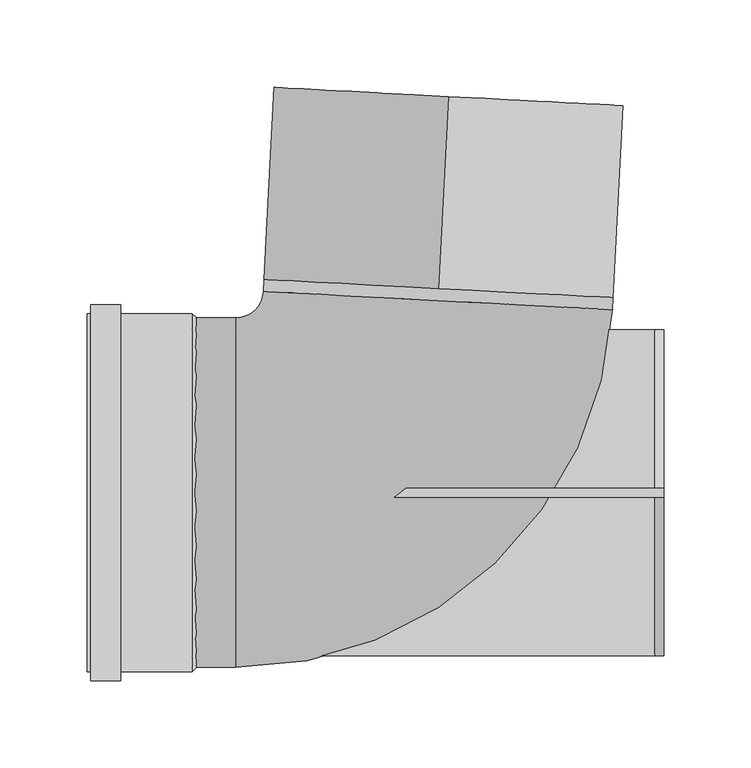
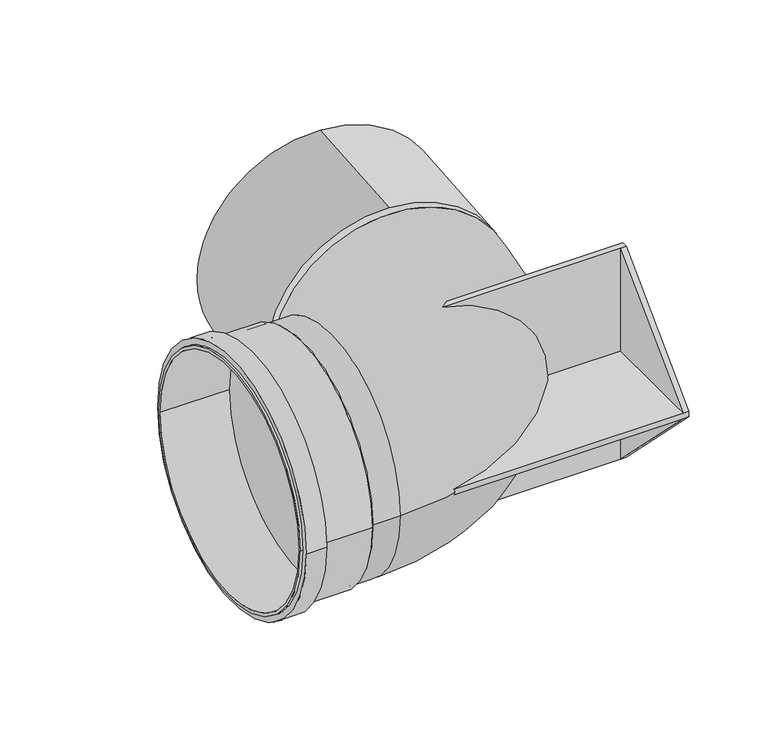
"""IFC4 building model written with IfcOpenShell, lengths in millimetres: duct fitting geometry, RSFen_DUF_UN_Twinline Supportbend_M&G : ø130 - 150 - 200."""

from ifc_helpers import new_model, si_unit, point, frame, origin, origin_2d, place, context, project, spatial, polyline, circle_curve, ellipse_curve, trimmed, segment, composite_curve, outline, extrude, faceted_brep, source, transform, mapped, element, save
from ifc_brep_helpers import plane_surface, cylinder_surface, revolved_surface, advanced_brep


def duct_fitting_fcce2ba4(model_context):
    return source(origin(), model_context, "Body", "SolidModel", [
        faceted_brep([(-80.0, -2.5, 2.5), (-80.0, -2.5, 93.2), (-80.0, 2.5, 93.2), (-80.0, 2.5, 2.5), (-80.0, 93.2, 2.5), (-80.0, 93.2, -2.5), (-80.0, 2.5, -2.5), (-80.0, 2.5, -93.2), (-80.0, -2.5, -93.2), (-80.0, -2.5, -2.5), (-80.0, -93.2, -2.5), (-80.0, -93.2, 2.5), (135.0, -93.2, 2.5), (135.0, -93.2, -2.5), (135.0, -2.5, -93.2), (135.0, 2.5, -93.2), (135.0, 93.2, -2.5), (135.0, 93.2, 2.5), (135.0, 2.5, 93.2), (135.0, -2.5, 93.2), (130.0, 93.2, 2.5), (130.0, 93.2, -2.5), (130.0, 2.5, -2.5), (130.0, 2.5, -93.2), (130.0, -2.5, -93.2), (130.0, -2.5, -2.5), (130.0, -93.2, -2.5), (130.0, -93.2, 2.5), (130.0, -2.5, 2.5), (130.0, -2.5, 93.2), (130.0, 2.5, 93.2), (130.0, 2.5, 2.5)], [[[0, 1, 2, 3, 4, 5, 6, 7, 8, 9, 10, 11]], [[12, 13, 14, 15, 16, 17, 18, 19]], [[5, 4, 20, 17, 16, 21]], [[6, 5, 21, 22]], [[7, 6, 22, 23]], [[8, 7, 23, 15, 14, 24]], [[9, 8, 24, 25]], [[10, 9, 25, 26]], [[11, 10, 26, 13, 12, 27]], [[0, 11, 27, 28]], [[1, 0, 28, 29]], [[2, 1, 29, 19, 18, 30]], [[3, 2, 30, 31]], [[4, 3, 31, 20]], [[30, 20, 31]], [[21, 23, 22]], [[24, 26, 25]], [[27, 29, 28]], [[29, 27, 12, 19]], [[26, 24, 14, 13]], [[23, 21, 16, 15]], [[20, 30, 18, 17]]]),
        advanced_brep(
        [(-137.0, 100.0, 0.0), (-137.0, -100.0, 0.0), (-135.0, 100.0, 0.0), (-135.0, -100.0, 0.0), (-110.0798897, -100.0, 0.0), (-110.0798897, 100.0, 0.0), (105.6240898, 104.6954335, 0.0), (-94.1018172, 115.1626247, 0.0), (105.9862604, 111.6060599, 0.0), (6.1233069, 116.8396556, 100.0), (-93.7396466, 122.0732512, 0.0), (6.1233069, 116.8396556, -100.0), (11.8802621, 226.6889044, -100.0), (11.8802621, 226.6889044, 100.0)],
        [
            (0, 1, circle_curve(frame((-137.0, 0.0, 0.0), z_axis=(-1.0, 0.0, 0.0), x_axis=(0.0, -1.0, 0.0)), 100.0)),
            (1, 0, circle_curve(frame((-137.0, 0.0, 0.0), z_axis=(-1.0, 0.0, 0.0), x_axis=(0.0, -1.0, 0.0)), 100.0)),
            (0, 2),
            (2, 3, circle_curve(frame((-135.0, 0.0, 0.0), z_axis=(-1.0, 0.0, 0.0), x_axis=(0.0, -1.0, 0.0)), 100.0)),
            (3, 1),
            (3, 2, circle_curve(frame((-135.0, 0.0, 0.0), z_axis=(-1.0, 0.0, 0.0), x_axis=(0.0, -1.0, 0.0)), 100.0)),
            (3, 4),
            (4, 5, circle_curve(frame((-110.0798897, 0.0, 0.0), z_axis=(-1.0, 0.0, 0.0), x_axis=(0.0, 1.0, 0.0)), 100.0)),
            (5, 2),
            (5, 4, circle_curve(frame((-110.0798897, 0.0, 0.0), z_axis=(-1.0, 0.0, 0.0), x_axis=(0.0, 1.0, 0.0)), 100.0)),
            (4, 6, circle_curve(frame((-110.0798897, 116.0, 0.0), z_axis=(0.0, 0.0, 1.0), x_axis=(0.0, -1.0, 0.0)), 216.0)),
            (6, 7, circle_curve(frame((5.7611363, 109.9290291, 0.0), z_axis=(-0.0523359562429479, -0.9986295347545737, 0.0), x_axis=(-0.9986295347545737, 0.0523359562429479, 0.0)), 100.0)),
            (7, 5, circle_curve(frame((-110.0798897, 116.0, 0.0), z_axis=(0.0, 0.0, -1.0), x_axis=(0.0, -1.0, 0.0)), 16.0)),
            (7, 6, circle_curve(frame((5.7611363, 109.9290291, 0.0), z_axis=(-0.052335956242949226, -0.9986295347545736, 0.0), x_axis=(-0.9986295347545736, 0.052335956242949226, 0.0)), 100.0)),
            (6, 8),
            (8, 9, circle_curve(frame((6.1233069, 116.8396556, 0.0), z_axis=(-0.05233595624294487, -0.9986295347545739, 0.0), x_axis=(-0.9986295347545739, 0.05233595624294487, 0.0)), 100.0)),
            (9, 10, circle_curve(frame((6.1233069, 116.8396556, 0.0), z_axis=(-0.05233595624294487, -0.9986295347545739, 0.0), x_axis=(-0.9986295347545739, 0.05233595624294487, 0.0)), 100.0)),
            (10, 7),
            (10, 11, circle_curve(frame((6.1233069, 116.8396556, 0.0), z_axis=(-0.05233595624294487, -0.9986295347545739, 0.0), x_axis=(-0.9986295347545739, 0.05233595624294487, 0.0)), 100.0)),
            (11, 8, circle_curve(frame((6.1233069, 116.8396556, 0.0), z_axis=(-0.05233595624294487, -0.9986295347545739, 0.0), x_axis=(-0.9986295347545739, 0.05233595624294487, 0.0)), 100.0)),
            (12, 13, circle_curve(frame((11.8802621, 226.6889044, 0.0), z_axis=(0.05233595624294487, 0.9986295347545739, 0.0), x_axis=(0.0, 0.0, 1.0)), 100.0)),
            (13, 12, circle_curve(frame((11.8802621, 226.6889044, 0.0), z_axis=(0.05233595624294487, 0.9986295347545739, 0.0), x_axis=(0.0, 0.0, 1.0)), 100.0)),
            (12, 11),
            (9, 13),
        ],
        [
            plane_surface(frame((-137.0, -100.0, 0.0), z_axis=(-1.0, 0.0, 0.0), x_axis=(0.0, 0.0, 1.0))),
            cylinder_surface(frame((-135.0, 0.0, 0.0), z_axis=(-1.0, 0.0, 0.0), x_axis=(0.0, -1.0, 0.0)), 100.0),
            cylinder_surface(frame((-135.0, 0.0, 0.0), z_axis=(-1.0, 0.0, 0.0), x_axis=(0.0, 1.0, 0.0)), 100.0),
            revolved_surface(trimmed(ellipse_curve(frame((-110.0798897, 0.0, 0.0), z_axis=(-1.0, 0.0, 0.0), x_axis=(0.0, 1.0, 0.0)), 100.0, 100.0), [point((-110.0798897, -100.0, 0.0))], [point((-110.0798897, 100.0, 0.0))], True, "CARTESIAN"), (-110.0798897, 116.0, 0.0), (0.0, 0.0, 1.0)),
            revolved_surface(trimmed(ellipse_curve(frame((-110.0798897, 0.0, 0.0), z_axis=(-1.0, 0.0, 0.0), x_axis=(0.0, 1.0, 0.0)), 100.0, 100.0), [point((-110.0798897, 100.0, 0.0))], [point((-110.0798897, -100.0, 0.0))], True, "CARTESIAN"), (-110.0798897, 116.0, 0.0), (0.0, 0.0, 1.0)),
            cylinder_surface(frame((5.7611363, 109.9290291, 0.0), z_axis=(-0.05233595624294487, -0.9986295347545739, 0.0), x_axis=(-0.9986295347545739, 0.05233595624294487, 0.0)), 100.0),
            plane_surface(frame((11.8802621, 226.6889044, 100.0), z_axis=(0.05233595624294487, 0.9986295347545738, 0.0), x_axis=(0.9986295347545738, -0.05233595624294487, 0.0))),
            cylinder_surface(frame((6.1233069, 116.8396556, 0.0), z_axis=(0.05233595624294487, 0.9986295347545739, 0.0), x_axis=(0.0, 0.0, 1.0)), 100.0),
        ],
        [
            (0, [[1, 2]]),
            (1, [[-1, 3, 4, 5]]),
            (1, [[-2, -5, 6, -3]]),
            (2, [[7, 8, 9, -6]]),
            (2, [[-7, -4, -9, 10]]),
            (3, [[-8, 11, 12, 13]]),
            (4, [[-10, -13, 14, -11]]),
            (5, [[-12, 15, 16, 17, 18]]),
            (5, [[-14, -18, 19, 20, -15]]),
            (6, [[21, 22]]),
            (7, [[-21, 23, -19, -17, 24]]),
            (7, [[-22, -24, -16, -20, -23]]),
        ],
    ),
        extrude(outline(composite_curve([segment(trimmed(circle_curve(origin_2d(), 107.5), [point((-107.5, 0.0))], [point((107.5, 0.0))], False, "CARTESIAN"), True, "CONTINUOUS"), segment(trimmed(circle_curve(origin_2d(), 107.5), [point((107.5, 0.0))], [point((-107.5, 0.0))], False, "CARTESIAN"), True, "CONTINUOUS")], self_intersect=False), holes=[composite_curve([segment(trimmed(circle_curve(origin_2d(), 102.5), [point((102.5, 0.0))], [point((-102.5, 0.0))], True, "CARTESIAN"), True, "CONTINUOUS"), segment(trimmed(circle_curve(origin_2d(), 102.5), [point((-102.5, 0.0))], [point((102.5, 0.0))], True, "CARTESIAN"), True, "CONTINUOUS")], self_intersect=False)]), frame((-193.0, 0.0, 0.0), z_axis=(1.0, 0.0, 0.0), x_axis=(0.0, 1.0, 0.0)), (0.0, 0.0, 1.0), 17.0),
        advanced_brep(
        [(-135.0, 102.5, 0.0), (-135.0, -102.5, 0.0), (-195.0, -102.5, 0.0), (-195.0, 102.5, 0.0), (-132.5, 100.0, 0.0), (-132.5, -100.0, 0.0), (-195.0, 100.0, 0.0), (-195.0, -100.0, 0.0)],
        [
            (0, 1, circle_curve(frame((-135.0, 0.0, 0.0), z_axis=(-1.0, 0.0, 0.0), x_axis=(0.0, -1.0, 0.0)), 102.5)),
            (1, 2),
            (2, 3, circle_curve(frame((-195.0, 0.0, 0.0), z_axis=(1.0, 0.0, 0.0), x_axis=(0.0, -1.0, 0.0)), 102.5)),
            (3, 0),
            (4, 5, circle_curve(frame((-132.5, 0.0, 0.0), z_axis=(-1.0, 0.0, 0.0), x_axis=(0.0, -1.0, 0.0)), 100.0)),
            (5, 1),
            (0, 4),
            (6, 7, circle_curve(frame((-195.0, 0.0, 0.0), z_axis=(-1.0, 0.0, 0.0), x_axis=(0.0, -1.0, 0.0)), 100.0)),
            (7, 5),
            (4, 6),
            (2, 3, circle_curve(frame((-195.0, 0.0, 0.0), z_axis=(-1.0, 0.0, 0.0), x_axis=(0.0, 1.0, 0.0)), 102.5)),
            (6, 7, circle_curve(frame((-195.0, 0.0, 0.0), z_axis=(1.0, 0.0, 0.0), x_axis=(0.0, 1.0, 0.0)), 100.0)),
            (1, 0, circle_curve(frame((-135.0, 0.0, 0.0), z_axis=(-1.0, 0.0, 0.0), x_axis=(0.0, 1.0, 0.0)), 102.5)),
            (5, 4, circle_curve(frame((-132.5, 0.0, 0.0), z_axis=(-1.0, 0.0, 0.0), x_axis=(0.0, 1.0, 0.0)), 100.0)),
        ],
        [
            cylinder_surface(frame((-135.0, 0.0, 0.0), z_axis=(1.0, 0.0, 0.0), x_axis=(0.0, -1.0, 0.0)), 102.5),
            revolved_surface(polyline([(-135.0, -102.5, 0.0), (-132.5, -100.0, 0.0)]), (-135.0, 0.0, 0.0), (1.0, 0.0, 0.0)),
            revolved_surface(polyline([(-132.5, -100.0, 0.0), (-195.0, -100.0, 0.0)]), (-135.0, 0.0, 0.0), (1.0, 0.0, 0.0)),
            plane_surface(frame((-195.0, 0.0, 0.0), z_axis=(-1.0, 0.0, 0.0), x_axis=(0.0, 1.0, 0.0))),
            cylinder_surface(frame((-135.0, 0.0, 0.0), z_axis=(1.0, 0.0, 0.0), x_axis=(0.0, 1.0, 0.0)), 102.5),
            revolved_surface(polyline([(-135.0, 102.5, 0.0), (-132.5, 100.0, 0.0)]), (-135.0, 0.0, 0.0), (1.0, 0.0, 0.0)),
            revolved_surface(polyline([(-132.5, 100.0, 0.0), (-195.0, 100.0, 0.0)]), (-135.0, 0.0, 0.0), (1.0, 0.0, 0.0)),
        ],
        [
            (0, [[1, 2, 3, 4]]),
            (1, [[5, 6, -1, 7]]),
            (2, [[8, 9, -5, 10]]),
            (3, [[11, -3], [12, -8]]),
            (4, [[13, -4, -11, -2]]),
            (5, [[14, -7, -13, -6]]),
            (6, [[-12, -10, -14, -9]]),
        ],
    ),
    ])


if __name__ == "__main__":
    model = new_model("IFC4")
    model_context = context("Model", 3, world=origin())
    ifc_project = project(units=[si_unit("LENGTHUNIT", "METRE", prefix="MILLI")], contexts=[model_context])
    site = spatial("IfcSite", under=ifc_project)
    building = spatial("IfcBuilding", under=site)
    placement = place(None, origin())
    duct_fitting_shape = duct_fitting_fcce2ba4(model_context)
    element("IfcDuctFitting", 1, ObjectType="RSFen_DUF_UN_Twinline Supportbend_M&G : ø130 - 150 - 200", at=placement, inside=building, context=model_context, shape_type="MappedRepresentation", body=[
        mapped(duct_fitting_shape, transform((0.0, 0.0, 0.0), x_axis=(1.0, 0.0, 0.0), y_axis=(0.0, 1.0, 0.0), z_axis=(0.0, 0.0, 1.0))),
    ])
    save(model, "model.ifc")
